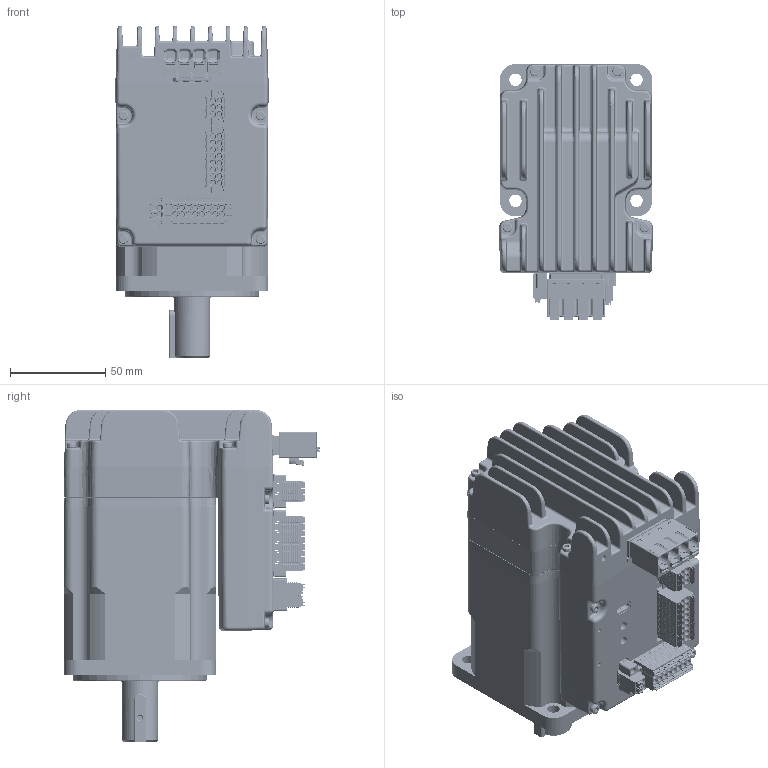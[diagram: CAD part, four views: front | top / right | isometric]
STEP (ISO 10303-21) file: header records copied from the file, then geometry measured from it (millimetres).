
FILE_DESCRIPTION((''),'2;1');
FILE_NAME('ISMD80D-DQ-AA','2025-10-31T16:47:08',('RD0060'),(''),'CREO PARAMETRIC BY PTC INC, 2016510','CREO PARAMETRIC BY PTC INC, 2016510','');
FILE_SCHEMA(('CONFIG_CONTROL_DESIGN'));
Products named in the file (1): ISMD80D-DQ-AA
Bounding box: 80.6 x 134.89 x 174.5 mm (x, y, z)
Surface area: 242246 mm2 (no closed solid volume)
Topology: 0 solids, 392 shells, 8598 faces, 26773 edges, 18314 vertices
Faces by surface type: plane 4455, cylinder 1999, bspline 871, torus 720, cone 407, sphere 125, extrusion 21
Entity records: 338493 total; most frequent: CARTESIAN_POINT 109230, DIRECTION 46447, ORIENTED_EDGE 44460, EDGE_CURVE 26561, VERTEX_POINT 18314, VECTOR 16231, LINE 16210, AXIS2_PLACEMENT_3D 15108
